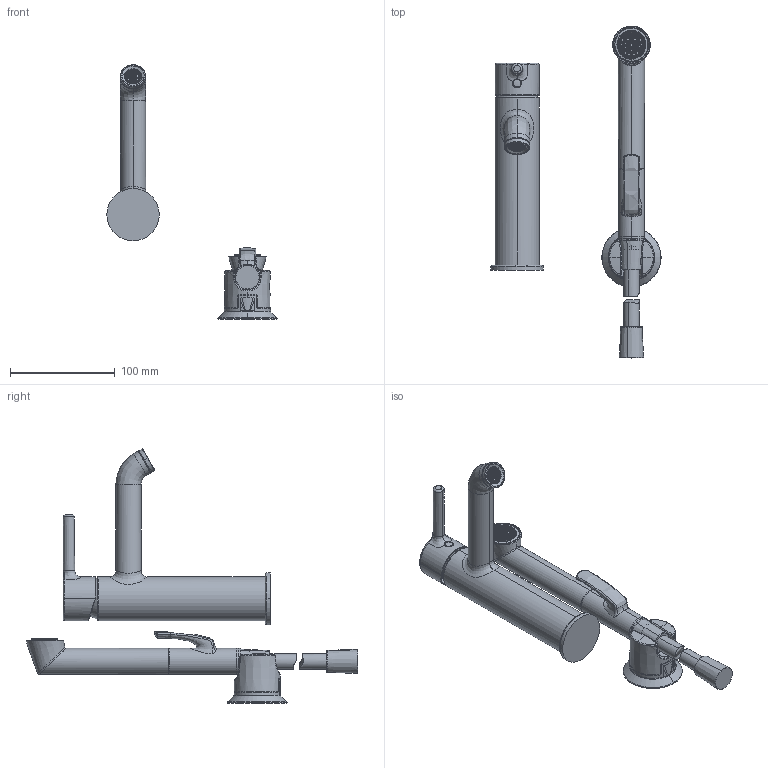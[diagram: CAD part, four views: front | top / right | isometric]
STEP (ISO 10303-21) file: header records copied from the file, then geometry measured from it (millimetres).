
FILE_DESCRIPTION (( 'STEP AP203' ), '1' );
FILE_NAME ('2613FH(2022).STEP', '2022-03-10T11:16:55', ( '' ), ( '' ), 'SwSTEP 2.0', 'SolidWorks 2016', '' );
FILE_SCHEMA (( 'CONFIG_CONTROL_DESIGN' ));
Products named in the file (1): 2613FH(2022)
Bounding box: 162.52 x 316.74 x 242.72 mm (x, y, z)
Surface area: 113381.2 mm2 (no closed solid volume)
Topology: 0 solids, 30 shells, 5159 faces, 14238 edges, 9084 vertices
Faces by surface type: plane 2885, bspline 1374, cylinder 442, cone 394, torus 49, sphere 15
Entity records: 276685 total; most frequent: CARTESIAN_POINT 164256, ORIENTED_EDGE 28327, DIRECTION 15769, EDGE_CURVE 14180, VERTEX_POINT 9081, B_SPLINE_CURVE_WITH_KNOTS 7554, EDGE_LOOP 6156, AXIS2_PLACEMENT_3D 5885
